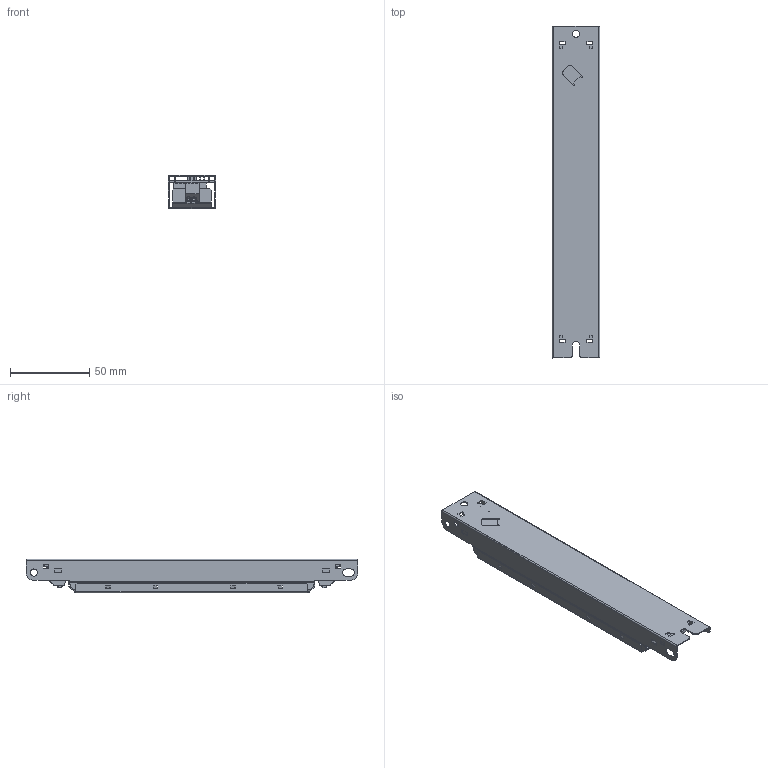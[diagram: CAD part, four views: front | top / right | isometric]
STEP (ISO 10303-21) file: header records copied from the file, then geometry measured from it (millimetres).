
FILE_DESCRIPTION(('Creo Elements/Direct Modeling STEP Export'),'2;1');
FILE_NAME('VS_20W, 35W.stp','2024-12-05T11:16:12',(''),(''),'Creo Elements/Direct Modeling STEP processor for AP214 (Solid Model)','Creo Elements/Direct Modeling 20.6 25-Mar-2023 (C) Parametric Technology GmbH','');
FILE_SCHEMA(('AUTOMOTIVE_DESIGN { 1 0 10303 214 1 1 1 1 }'));
Length unit declared in the file: millimetre
Products named in the file (4): casing top; PCB; casing bottom; 20W__35W.stp
Assembly tree (3 placements, depth 2):
  20W__35W.stp
    casing bottom
    PCB
    casing top
Bounding box: 30 x 210 x 21 mm (x, y, z)
Volume: 21014.4 mm3; surface area: 53472.3 mm2
Topology: 3 solids, 3 shells, 745 faces, 2119 edges, 1389 vertices
Faces by surface type: plane 557, cylinder 138, extrusion 40, cone 10
Entity records: 26353 total; most frequent: CARTESIAN_POINT 5737, ORIENTED_EDGE 4238, DIRECTION 3707, EDGE_CURVE 2119, VECTOR 1755, LINE 1715, VERTEX_POINT 1389, AXIS2_PLACEMENT_3D 976
